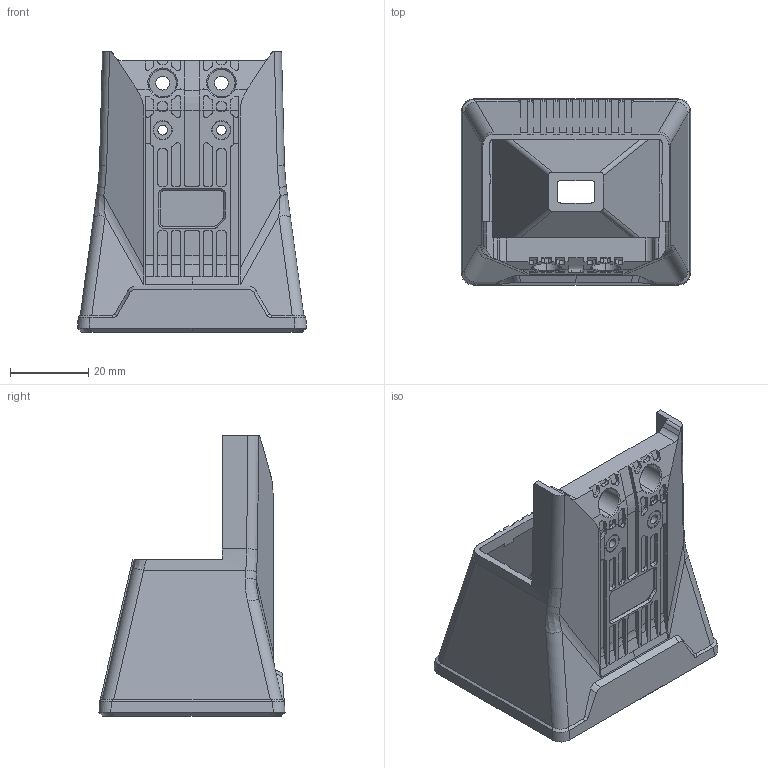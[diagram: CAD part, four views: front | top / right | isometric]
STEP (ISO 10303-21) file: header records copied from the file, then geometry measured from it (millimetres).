
FILE_DESCRIPTION((''),'2;1');
FILE_NAME('DE-20-060808_ASM','2026-07-27T10:40:08',('wangmingdong5'),(''),'CREO PARAMETRIC BY PTC INC, 2020044','CREO PARAMETRIC BY PTC INC, 2020044','');
FILE_SCHEMA(('AUTOMOTIVE_DESIGN { 1 0 10303 214 1 1 1 1 }'));
Length unit declared in the file: millimetre
Products named in the file (6): DE-14-100147; DE-13-000629; DE-20-059860_ASM; DE-14-100148; DE-1F-000186; DE-20-060808_ASM
Assembly tree (7 placements, depth 3):
  DE-20-060808_ASM
    DE-20-059860_ASM
      DE-14-100147
      DE-13-000629  x2
    DE-14-100148
    DE-1F-000186  x2
Bounding box: 58.52 x 47.5 x 71.62 mm (x, y, z)
Volume: 33699.5 mm3; surface area: 29820.8 mm2
Topology: 6 solids, 6 shells, 637 faces, 1672 edges, 1061 vertices
Faces by surface type: plane 299, cylinder 229, bspline 84, cone 25
Entity records: 27888 total; most frequent: CARTESIAN_POINT 13007, ORIENTED_EDGE 3128, DIRECTION 2502, EDGE_CURVE 1564, VERTEX_POINT 998, VECTOR 872, LINE 872, AXIS2_PLACEMENT_3D 815
